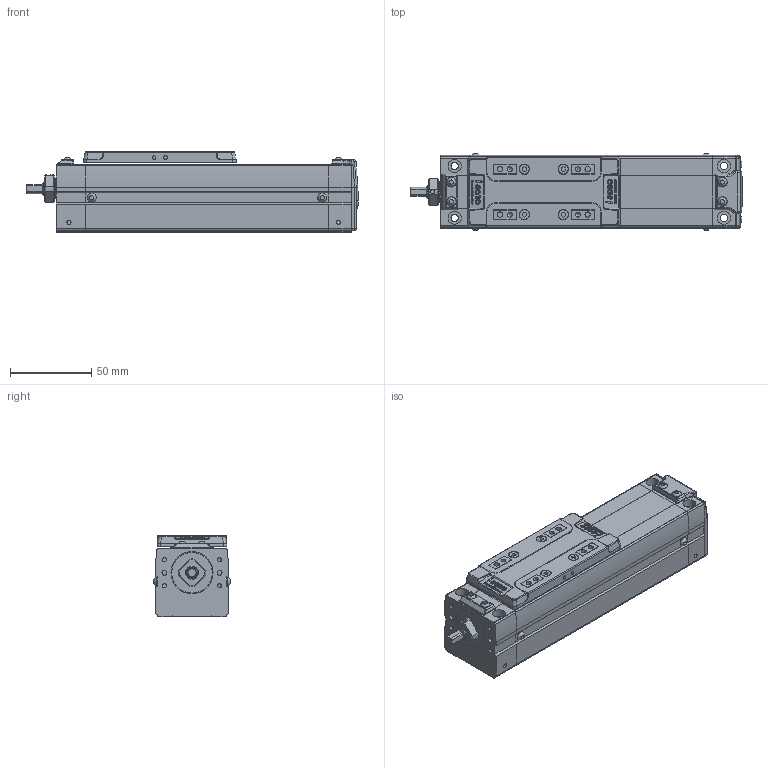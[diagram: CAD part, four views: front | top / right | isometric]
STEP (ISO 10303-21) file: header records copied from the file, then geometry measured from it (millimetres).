
FILE_DESCRIPTION(('STEP AP214'),'1');
FILE_NAME('Z:/Web/3D/SAN45/STP/SAN45ㅁㅁ-050.stp','2012-06-15T02:39:37',(' '),(' '),'Spatial InterOp 3D',' ',' ');
FILE_SCHEMA(('automotive_design'));
Length unit declared in the file: metre
Products named in the file (27): SAN45__-050; BODY-SAN45; REAR-SAN45; RRCV-SAN45; BHCS M3 x 6L; BHCS M3 X 6L; FRONT-SAN45; SHAFT; RN8 x 0.75; SSFX-SAN45; SLIDE-SAN45; SLCV-IM45; FHCS M3 x 6L
Assembly tree (26 placements, depth 3):
  SAN45__-050
    BODY-SAN45
    REAR-SAN45
      REAR-SAN45
      RRCV-SAN45
      BHCS M3 x 6L
      BHCS M3 X 6L
      BHCS M3 x 6L
      BHCS M3 x 6L
      BHCS M3 x 6L
      BHCS M3 x 6L
    FRONT-SAN45
      FRONT-SAN45
      SHAFT
      RN8 x 0.75
      SSFX-SAN45
      BHCS M3 x 6L
      BHCS M3 x 6L
      BHCS M3 x 6L
      BHCS M3 x 6L
    SLIDE-SAN45
      SLIDE-SAN45
      SLCV-IM45
      FHCS M3 x 6L
      FHCS M3 x 6L
      FHCS M3 x 6L
      FHCS M3 x 6L
Bounding box: 204.65 x 47.13 x 50 mm (x, y, z)
Volume: 352921.8 mm3; surface area: 77178.8 mm2
Topology: 23 solids, 23 shells, 1353 faces, 3478 edges, 2261 vertices
Faces by surface type: plane 838, cylinder 384, cone 59, bspline 38, sphere 22, torus 9, extrusion 3
Full cylindrical faces by diameter (mm): 0.376 x2, 0.47 x1, 1.137 x2, 1.421 x1, 1.665 x4, 2.081 x2, 2.2 x4, 2.5 x13, 3 x6, 3.193 x4, 3.3 x4, 3.4 x4, 3.5 x6, 3.991 x2, 4.2 x3, 4.5 x4, 5 x3, 6 x6, 7 x1, 8 x8, 13 x1, 15 x1, 19 x1
Entity records: 55047 total; most frequent: CARTESIAN_POINT 10908, DIRECTION 6829, ORIENTED_EDGE 6558, EDGE_CURVE 3279, AXIS2_PLACEMENT_3D 2283, VECTOR 2263, LINE 2260, VERTEX_POINT 2218
